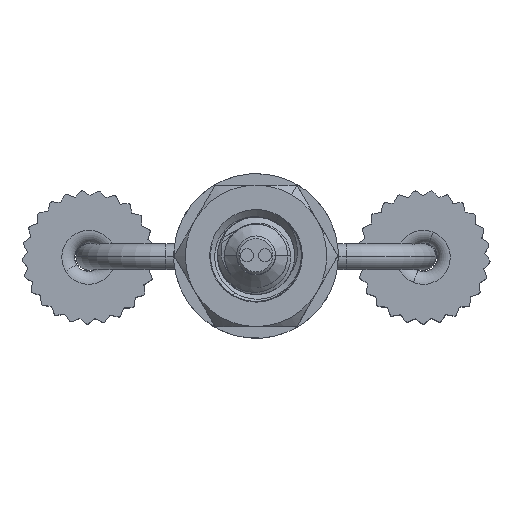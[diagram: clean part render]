
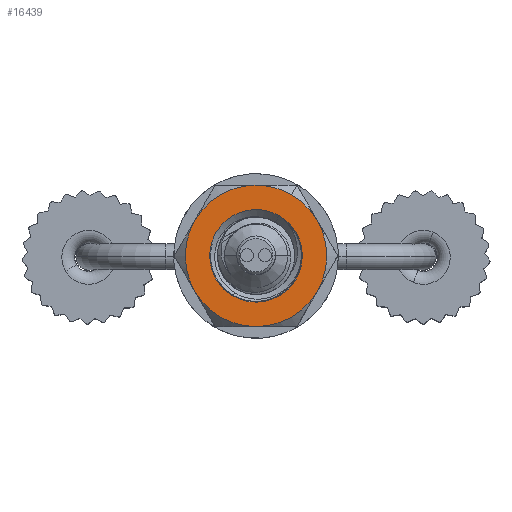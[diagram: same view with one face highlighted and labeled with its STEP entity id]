
A CAD part, top view. The second image highlights one B-rep face of the part: STEP entity #16439.
In plain terms, the highlighted planar face has unit normal (0, 0, 1).
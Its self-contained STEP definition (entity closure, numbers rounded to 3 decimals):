
#1037 = CARTESIAN_POINT ( 'NONE',  ( 0., -2.75, 2.4 ) ) ;
#1110 = CARTESIAN_POINT ( 'NONE',  ( 2.382, -1.375, 2.4 ) ) ;
#1993 = EDGE_LOOP ( 'NONE', ( #15382, #2731 ) ) ;
#2027 = DIRECTION ( 'NONE',  ( 0., 0., -1. ) ) ;
#2285 = VERTEX_POINT ( 'NONE', #8576 ) ;
#2731 = ORIENTED_EDGE ( 'NONE', *, *, #13744, .T. ) ;
#2802 = CIRCLE ( 'NONE', #5816, 1.8 ) ;
#2975 = FACE_OUTER_BOUND ( 'NONE', #3239, .T. ) ;
#3080 = EDGE_CURVE ( 'NONE', #20327, #5351, #16327, .T. ) ;
#3239 = EDGE_LOOP ( 'NONE', ( #18426, #10855, #20291, #6124, #6992, #18627, #9752 ) ) ;
#4304 = EDGE_CURVE ( 'NONE', #5351, #5403, #10493, .T. ) ;
#4393 = CARTESIAN_POINT ( 'NONE',  ( -2.382, -1.375, 2.4 ) ) ;
#4624 = DIRECTION ( 'NONE',  ( -1., 0., 0. ) ) ;
#5020 = CARTESIAN_POINT ( 'NONE',  ( 2.382, 1.375, 2.4 ) ) ;
#5248 = VERTEX_POINT ( 'NONE', #1037 ) ;
#5351 = VERTEX_POINT ( 'NONE', #5020 ) ;
#5399 = CARTESIAN_POINT ( 'NONE',  ( 0., 0., 2.4 ) ) ;
#5403 = VERTEX_POINT ( 'NONE', #1110 ) ;
#5733 = CARTESIAN_POINT ( 'NONE',  ( -2.382, 1.375, 2.4 ) ) ;
#5747 = AXIS2_PLACEMENT_3D ( 'NONE', #16462, #18441, #4624 ) ;
#5816 = AXIS2_PLACEMENT_3D ( 'NONE', #14205, #20230, #24017 ) ;
#6124 = ORIENTED_EDGE ( 'NONE', *, *, #8256, .F. ) ;
#6241 = CIRCLE ( 'NONE', #24245, 1.8 ) ;
#6280 = DIRECTION ( 'NONE',  ( 1., 0., 0. ) ) ;
#6956 = FACE_BOUND ( 'NONE', #1993, .T. ) ;
#6992 = ORIENTED_EDGE ( 'NONE', *, *, #24442, .F. ) ;
#8256 = EDGE_CURVE ( 'NONE', #19522, #20327, #25454, .T. ) ;
#8576 = CARTESIAN_POINT ( 'NONE',  ( 1.8, 0., 2.4 ) ) ;
#8824 = AXIS2_PLACEMENT_3D ( 'NONE', #11402, #19286, #17045 ) ;
#9752 = ORIENTED_EDGE ( 'NONE', *, *, #16851, .F. ) ;
#10493 = CIRCLE ( 'NONE', #8824, 2.75 ) ;
#10855 = ORIENTED_EDGE ( 'NONE', *, *, #4304, .F. ) ;
#11402 = CARTESIAN_POINT ( 'NONE',  ( 0., 0., 2.4 ) ) ;
#12052 = DIRECTION ( 'NONE',  ( 1., 0., 0. ) ) ;
#12061 = DIRECTION ( 'NONE',  ( 0., 0., -1. ) ) ;
#12712 = CIRCLE ( 'NONE', #24399, 2.75 ) ;
#12777 = CARTESIAN_POINT ( 'NONE',  ( 0., 0., 2.4 ) ) ;
#12955 = VERTEX_POINT ( 'NONE', #22216 ) ;
#13030 = DIRECTION ( 'NONE',  ( 1., 0., 0. ) ) ;
#13123 = CARTESIAN_POINT ( 'NONE',  ( 0., 0., 2.4 ) ) ;
#13157 = DIRECTION ( 'NONE',  ( 0., 0., -1. ) ) ;
#13295 = AXIS2_PLACEMENT_3D ( 'NONE', #14550, #16389, #16521 ) ;
#13675 = DIRECTION ( 'NONE',  ( 1., 0., 0. ) ) ;
#13744 = EDGE_CURVE ( 'NONE', #12955, #2285, #6241, .T. ) ;
#13856 = EDGE_CURVE ( 'NONE', #5403, #5248, #18827, .T. ) ;
#14205 = CARTESIAN_POINT ( 'NONE',  ( 0., 0., 2.4 ) ) ;
#14223 = CARTESIAN_POINT ( 'NONE',  ( 0., 2.75, 2.4 ) ) ;
#14423 = DIRECTION ( 'NONE',  ( 1., 0., 0. ) ) ;
#14478 = CARTESIAN_POINT ( 'NONE',  ( -2.75, 0., 2.4 ) ) ;
#14550 = CARTESIAN_POINT ( 'NONE',  ( 0., 0., 2.4 ) ) ;
#14763 = VERTEX_POINT ( 'NONE', #4393 ) ;
#14976 = CIRCLE ( 'NONE', #13295, 2.75 ) ;
#15382 = ORIENTED_EDGE ( 'NONE', *, *, #24776, .T. ) ;
#15480 = CARTESIAN_POINT ( 'NONE',  ( 0., 0., 2.4 ) ) ;
#15900 = AXIS2_PLACEMENT_3D ( 'NONE', #5399, #13157, #13675 ) ;
#16311 = AXIS2_PLACEMENT_3D ( 'NONE', #15480, #23464, #14423 ) ;
#16327 = CIRCLE ( 'NONE', #19684, 2.75 ) ;
#16389 = DIRECTION ( 'NONE',  ( 0., 0., -1. ) ) ;
#16439 = ADVANCED_FACE ( 'NONE', ( #6956, #2975 ), #18651, .T. ) ;
#16462 = CARTESIAN_POINT ( 'NONE',  ( 0., 0., 2.4 ) ) ;
#16521 = DIRECTION ( 'NONE',  ( 1., 0., 0. ) ) ;
#16851 = EDGE_CURVE ( 'NONE', #5248, #14763, #12712, .T. ) ;
#17045 = DIRECTION ( 'NONE',  ( 1., 0., 0. ) ) ;
#17063 = DIRECTION ( 'NONE',  ( 0., 0., 1. ) ) ;
#18144 = AXIS2_PLACEMENT_3D ( 'NONE', #13123, #17063, #25045 ) ;
#18426 = ORIENTED_EDGE ( 'NONE', *, *, #13856, .F. ) ;
#18441 = DIRECTION ( 'NONE',  ( 0., 0., -1. ) ) ;
#18627 = ORIENTED_EDGE ( 'NONE', *, *, #21378, .F. ) ;
#18651 = PLANE ( 'NONE',  #18144 ) ;
#18827 = CIRCLE ( 'NONE', #16311, 2.75 ) ;
#19286 = DIRECTION ( 'NONE',  ( 0., 0., -1. ) ) ;
#19522 = VERTEX_POINT ( 'NONE', #5733 ) ;
#19684 = AXIS2_PLACEMENT_3D ( 'NONE', #12777, #25081, #13030 ) ;
#20230 = DIRECTION ( 'NONE',  ( 0., 0., -1. ) ) ;
#20291 = ORIENTED_EDGE ( 'NONE', *, *, #3080, .F. ) ;
#20327 = VERTEX_POINT ( 'NONE', #14223 ) ;
#20483 = VERTEX_POINT ( 'NONE', #14478 ) ;
#21378 = EDGE_CURVE ( 'NONE', #14763, #20483, #14976, .T. ) ;
#22216 = CARTESIAN_POINT ( 'NONE',  ( -1.8, 0., 2.4 ) ) ;
#23464 = DIRECTION ( 'NONE',  ( 0., 0., -1. ) ) ;
#24017 = DIRECTION ( 'NONE',  ( 1., 0., 0. ) ) ;
#24102 = CARTESIAN_POINT ( 'NONE',  ( 0., 0., 2.4 ) ) ;
#24245 = AXIS2_PLACEMENT_3D ( 'NONE', #25961, #2027, #12052 ) ;
#24399 = AXIS2_PLACEMENT_3D ( 'NONE', #24102, #12061, #6280 ) ;
#24442 = EDGE_CURVE ( 'NONE', #20483, #19522, #24682, .T. ) ;
#24682 = CIRCLE ( 'NONE', #15900, 2.75 ) ;
#24776 = EDGE_CURVE ( 'NONE', #2285, #12955, #2802, .T. ) ;
#25045 = DIRECTION ( 'NONE',  ( 1., 0., 0. ) ) ;
#25081 = DIRECTION ( 'NONE',  ( 0., 0., -1. ) ) ;
#25454 = CIRCLE ( 'NONE', #5747, 2.75 ) ;
#25961 = CARTESIAN_POINT ( 'NONE',  ( 0., 0., 2.4 ) ) ;
